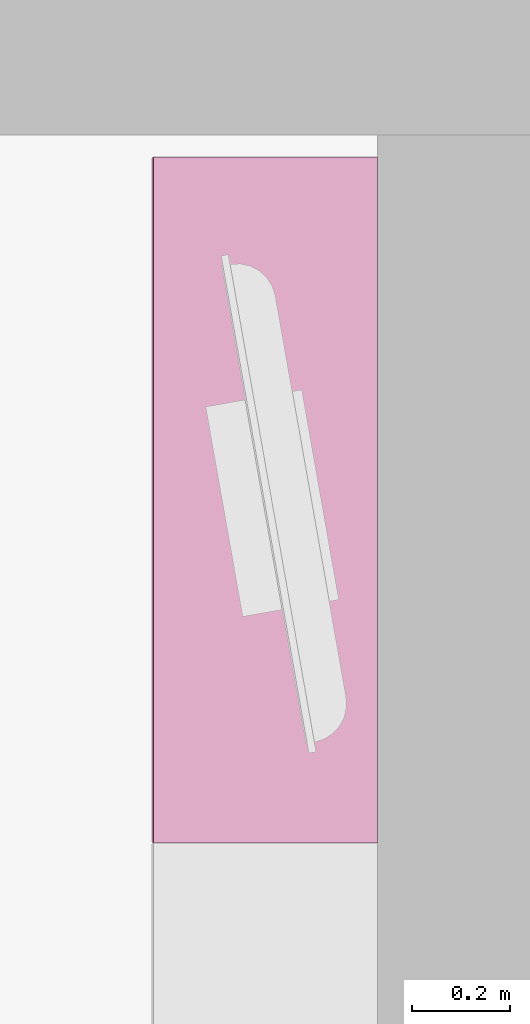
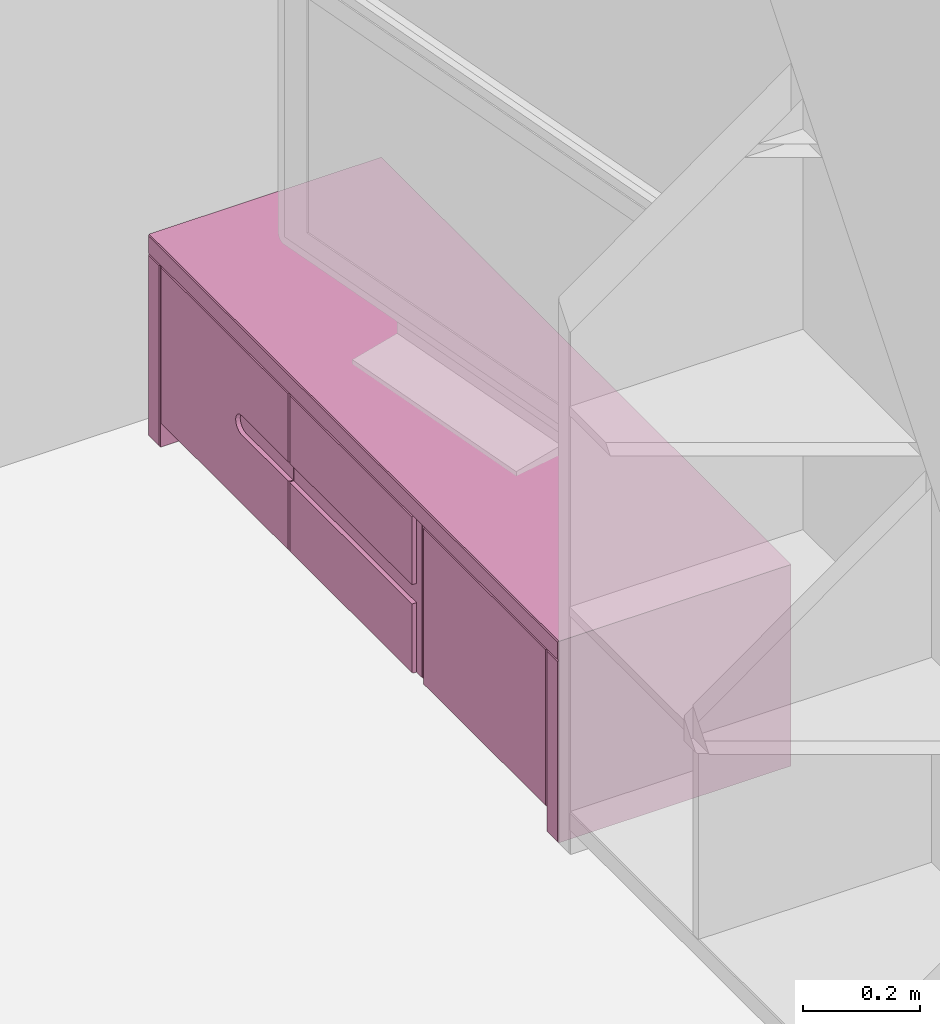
# One storey, part 37 of 40: 1 furnishing.
"""IFC2X3 building model written with IfcOpenShell, lengths in metres."""

import ifcopenshell
import ifcopenshell.guid

model = None  # the IFC model being written
_history = None  # IfcOwnerHistory: only IFC2X3 demands one
_inside = {}  # id of a spatial element -> (the spatial element, [elements in it])
_under = {}  # id of a project, library or spatial element -> (it, [spatial elements below it])
_declared = {}  # id of a project -> (the project, [libraries it declares])
_typed = {}  # id of a type object -> (the type object, [elements of that type])
_made_of = {}  # id of a material, layer set ... -> (it, [elements and type objects made of it])


def new_model(schema):
    """Start an empty IFC model of exactly this schema.

    Asked for "IFC4X3", IfcOpenShell would pick the latest addendum, in which some entities
    have other attributes; the version numbers below select the first issue.
    IFC2X3 requires an IfcOwnerHistory on every rooted entity: one is made here for all.
    """
    global model, _history
    if schema == "IFC4X3":
        model = ifcopenshell.file(schema_version=(4, 3, 0, 0))
    else:
        model = ifcopenshell.file(schema=schema)
    _inside.clear()
    _under.clear()
    _declared.clear()
    _typed.clear()
    _made_of.clear()
    _history = None
    if model.schema == "IFC2X3":
        org = make("IfcOrganization", Name="unknown")
        user = make(
            "IfcPersonAndOrganization",
            ThePerson=make("IfcPerson", FamilyName="unknown"),
            TheOrganization=org,
        )
        app = make(
            "IfcApplication",
            ApplicationDeveloper=org,
            Version="unknown",
            ApplicationFullName="unknown",
            ApplicationIdentifier="unknown",
        )
        _history = make(
            "IfcOwnerHistory",
            OwningUser=user,
            OwningApplication=app,
            ChangeAction="ADDED",
            CreationDate=0,
        )
    return model


def make(cls, **values):
    """One entity of the class cls with the attributes given. An attribute that is None is left unset."""
    return model.create_entity(
        cls, **{name: value for name, value in values.items() if value is not None}
    )


def entity(cls, *values):
    """Any entity or typed value of the class cls, its attributes in the order of the schema. None: left unset."""
    e = model.create_entity(cls)
    for i, value in enumerate(values):
        if value is not None:
            e[i] = value
    return e


def rooted(cls, **values):
    """An entity with a GlobalId (a new one), such as an element, a storey or a relation."""
    return make(cls, GlobalId=ifcopenshell.guid.new(), OwnerHistory=_history, **values)


def si_unit(unit_type, name, prefix=None):
    """IfcSIUnit, for example si_unit("LENGTHUNIT", "METRE", prefix="MILLI")."""
    return make("IfcSIUnit", UnitType=unit_type, Prefix=prefix, Name=name)


def converted_unit(unit_type, name, factor, base, dimensions=None, offset=None):
    """IfcConversionBasedUnit, such as the inch: factor (a typed value) times the base unit."""
    return make(
        "IfcConversionBasedUnit"
        if offset is None
        else "IfcConversionBasedUnitWithOffset",
        ConversionOffset=offset,
        Dimensions=None
        if dimensions is None
        else entity("IfcDimensionalExponents", *dimensions),
        UnitType=unit_type,
        Name=name,
        ConversionFactor=make(
            "IfcMeasureWithUnit", ValueComponent=factor, UnitComponent=base
        ),
    )


def derived_unit(unit_type, elements):
    """IfcDerivedUnit: a product of units, each with its exponent."""
    return make(
        "IfcDerivedUnit",
        Elements=[
            make("IfcDerivedUnitElement", Unit=unit, Exponent=power)
            for unit, power in elements
        ],
        UnitType=unit_type,
    )


def assignment(units):
    """IfcUnitAssignment: the units of a project."""
    return None if units is None else make("IfcUnitAssignment", Units=units)


def point(xyz):
    """IfcCartesianPoint."""
    return None if xyz is None else make("IfcCartesianPoint", Coordinates=xyz)


def direction(xyz):
    """IfcDirection."""
    return None if xyz is None else make("IfcDirection", DirectionRatios=xyz)


def frame(location, z_axis=None, x_axis=None):
    """IfcAxis2Placement3D, a coordinate frame: its origin and axes. An axis left out is left unset."""
    return make(
        "IfcAxis2Placement3D",
        Location=point(location),
        Axis=direction(z_axis),
        RefDirection=direction(x_axis),
    )


def origin():
    """The frame at (0, 0, 0) with its axes left unset."""
    return frame((0.0, 0.0, 0.0))


def place(relative_to, where):
    """IfcLocalPlacement: puts the frame where relative to a parent placement (None: the world)."""
    return make(
        "IfcLocalPlacement", PlacementRelTo=relative_to, RelativePlacement=where
    )


def context(
    kind, dimensions, precision=None, world=None, true_north=None, identifier=None
):
    """IfcGeometricRepresentationContext, for example the 3D "Model" context."""
    return make(
        "IfcGeometricRepresentationContext",
        ContextIdentifier=identifier,
        ContextType=kind,
        CoordinateSpaceDimension=dimensions,
        Precision=precision,
        WorldCoordinateSystem=world,
        TrueNorth=true_north,
    )


def subcontext(parent, identifier, kind, view, scale=None):
    """IfcGeometricRepresentationSubContext, for example "Body" below "Model"."""
    return make(
        "IfcGeometricRepresentationSubContext",
        ContextIdentifier=identifier,
        ContextType=kind,
        ParentContext=parent,
        TargetScale=scale,
        TargetView=view,
    )


def project(units=None, contexts=None):
    """IfcProject with its units and contexts."""
    return rooted(
        "IfcProject",
        Name="project",
        RepresentationContexts=contexts,
        UnitsInContext=assignment(units),
    )


def spatial(cls, under=None, at=None, **own):
    """A site, building, storey or space (cls), placed at a placement, below another one or the project."""
    s = rooted(cls, ObjectPlacement=at, **own)
    if under is not None:
        _under.setdefault(under.id(), (under, []))[1].append(s)
    return s


def faces_of(points, faces, orient=None, outer=None):
    """IfcFace entities. A face is a list of loops; a loop is a list of indices into points, from 0.

    orient and outer hold one flag for each loop. By default every Orientation is true, the
    first loop of a face is its IfcFaceOuterBound and the others are IfcFaceBound.
    """
    made = []
    for i, loops in enumerate(faces):
        bounds = []
        for j, loop in enumerate(loops):
            is_outer = j == 0 if outer is None else outer[i][j]
            bounds.append(
                make(
                    "IfcFaceOuterBound" if is_outer else "IfcFaceBound",
                    Bound=make("IfcPolyLoop", Polygon=[points[k] for k in loop]),
                    Orientation=True if orient is None else orient[i][j],
                )
            )
        made.append(make("IfcFace", Bounds=bounds))
    return made


def faceted_brep(points, faces, orient=None, outer=None, voids=None):
    """IfcFacetedBrep: a solid bounded by flat faces; with voids (closed shells), ...WithVoids."""
    shared = [point(p) for p in points]
    hull = make("IfcClosedShell", CfsFaces=faces_of(shared, faces, orient, outer))
    if voids is None:
        return make("IfcFacetedBrep", Outer=hull)
    return make(
        "IfcFacetedBrepWithVoids",
        Outer=hull,
        Voids=[
            make(cls, CfsFaces=faces_of(shared, fs, o, b)) for cls, fs, o, b in voids
        ],
    )


def shape(context_of_items, identifier, shape_type, items):
    """IfcShapeRepresentation: the items that make up one representation, for example the "Body"."""
    return make(
        "IfcShapeRepresentation",
        ContextOfItems=context_of_items,
        RepresentationIdentifier=identifier,
        RepresentationType=shape_type,
        Items=items,
    )


def source(mapping_origin, context_of_items, identifier, shape_type, items):
    """IfcRepresentationMap: a shape defined once, which mapped items show again and again."""
    return make(
        "IfcRepresentationMap",
        MappingOrigin=mapping_origin,
        MappedRepresentation=shape(context_of_items, identifier, shape_type, items),
    )


def transform(
    local_origin,
    x_axis=None,
    y_axis=None,
    z_axis=None,
    scale=None,
    scale2=None,
    scale3=None,
    uniform=True,
):
    """IfcCartesianTransformationOperator3D, or its non-uniform kind. x_axis, y_axis, z_axis: its Axis1, 2, 3."""
    if uniform:
        return make(
            "IfcCartesianTransformationOperator3D",
            Axis1=direction(x_axis),
            Axis2=direction(y_axis),
            LocalOrigin=point(local_origin),
            Scale=scale,
            Axis3=direction(z_axis),
        )
    return make(
        "IfcCartesianTransformationOperator3DnonUniform",
        Axis1=direction(x_axis),
        Axis2=direction(y_axis),
        LocalOrigin=point(local_origin),
        Scale=scale,
        Axis3=direction(z_axis),
        Scale2=scale2,
        Scale3=scale3,
    )


def mapped(mapping_source, mapping_target):
    """IfcMappedItem: shows the shape of a source again, moved by a transform."""
    return make(
        "IfcMappedItem", MappingSource=mapping_source, MappingTarget=mapping_target
    )


def material(Name=None, Category=None):
    """IfcMaterial."""
    return make("IfcMaterial", Name=Name, Category=Category)


def material_list(materials):
    """IfcMaterialList."""
    return make("IfcMaterialList", Materials=materials)


def made_of(thing, what):
    """Note that an element or type object is made of a material, layer set ...; save() writes the relation."""
    if what is not None:
        _made_of.setdefault(what.id(), (what, []))[1].append(thing)
    return thing


def type_object(cls, material=None, **own):
    """A type object (cls), such as IfcWallType, which elements share."""
    return made_of(rooted(cls, **own), material)


def type_shapes(of_type, sources):
    """Give a type object the sources (RepresentationMaps) that its elements show as mapped items."""
    of_type.RepresentationMaps = sources


def element(
    cls,
    number,
    at=None,
    inside=None,
    cuts=None,
    type_object=None,
    material=None,
    context=None,
    identifier="Body",
    shape_type=None,
    held_by="IfcProductDefinitionShape",
    body=None,
    shapes=None,
    **own,
):
    """One element of the class cls, such as IfcWall. Its Tag is "e" and its number.

    at: its placement. inside: the storey or other place that contains it. cuts: it is an
    opening in that element (IfcRelVoidsElement). A single representation is given by context,
    identifier, shape_type and body (its items); several are given by shapes. held_by: the class
    of the entity that holds the representations. save() writes the other relations.
    """
    e = rooted(cls, Tag="e%d" % number, ObjectPlacement=at, **own)
    if body is not None:
        shapes = [shape(context, identifier, shape_type, body)]
    if shapes is not None:
        e.Representation = make(held_by, Representations=shapes)
    if inside is not None:
        _inside.setdefault(inside.id(), (inside, []))[1].append(e)
    if cuts is not None:
        rooted(
            "IfcRelVoidsElement", RelatingBuildingElement=cuts, RelatedOpeningElement=e
        )
    if type_object is not None:
        _typed.setdefault(type_object.id(), (type_object, []))[1].append(e)
    return made_of(e, material)


def aggregate(whole, parts):
    """IfcRelAggregates: a whole, such as a stair, and the parts it consists of."""
    return rooted("IfcRelAggregates", RelatingObject=whole, RelatedObjects=parts)


def save(model, path):
    """Write the relations noted so far, then the file.

    IfcRelAggregates (storeys below a building ...), IfcRelContainedInSpatialStructure (elements
    in a storey), IfcRelDefinesByType, IfcRelAssociatesMaterial and IfcRelDeclares: one each for
    every whole, place, type object, material and project.
    """
    for whole, parts in _under.values():
        aggregate(whole, parts)
    for where, things in _inside.values():
        rooted(
            "IfcRelContainedInSpatialStructure",
            RelatedElements=things,
            RelatingStructure=where,
        )
    for kind, things in _typed.values():
        rooted("IfcRelDefinesByType", RelatedObjects=things, RelatingType=kind)
    for what, things in _made_of.values():
        rooted("IfcRelAssociatesMaterial", RelatedObjects=things, RelatingMaterial=what)
    for by, libraries in _declared.values():
        rooted("IfcRelDeclares", RelatingContext=by, RelatedDefinitions=libraries)
    model.write(path)


model = new_model("IFC2X3")

# Units and contexts
model_context = context("Model", 3, precision=1e-05, world=origin(), true_north=direction((6.12303176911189e-17, 1.0)))
body_context = subcontext(model_context, "Body", "Model", "MODEL_VIEW")
ifc_project = project(units=[si_unit("LENGTHUNIT", "METRE"), si_unit("AREAUNIT", "SQUARE_METRE"), si_unit("VOLUMEUNIT", "CUBIC_METRE"), converted_unit("PLANEANGLEUNIT", "DEGREE", entity("IfcRatioMeasure", 0.0174532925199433), si_unit("PLANEANGLEUNIT", "RADIAN"), dimensions=[0, 0, 0, 0, 0, 0, 0]), si_unit("MASSUNIT", "GRAM", prefix="KILO"), derived_unit("MASSDENSITYUNIT", [(si_unit("MASSUNIT", "GRAM", prefix="KILO"), 1), (si_unit("LENGTHUNIT", "METRE"), -3)]), si_unit("TIMEUNIT", "SECOND"), si_unit("FREQUENCYUNIT", "HERTZ"), si_unit("THERMODYNAMICTEMPERATUREUNIT", "DEGREE_CELSIUS"), derived_unit("THERMALTRANSMITTANCEUNIT", [(si_unit("MASSUNIT", "GRAM", prefix="KILO"), 1), (si_unit("THERMODYNAMICTEMPERATUREUNIT", "KELVIN"), -1), (si_unit("TIMEUNIT", "SECOND"), -3)]), derived_unit("VOLUMETRICFLOWRATEUNIT", [(si_unit("LENGTHUNIT", "METRE"), 3), (si_unit("TIMEUNIT", "SECOND"), -1)]), si_unit("ELECTRICCURRENTUNIT", "AMPERE"), si_unit("ELECTRICVOLTAGEUNIT", "VOLT"), si_unit("POWERUNIT", "WATT"), si_unit("FORCEUNIT", "NEWTON", prefix="KILO"), si_unit("ILLUMINANCEUNIT", "LUX"), si_unit("LUMINOUSFLUXUNIT", "LUMEN"), si_unit("LUMINOUSINTENSITYUNIT", "CANDELA"), derived_unit("USERDEFINED", [(si_unit("MASSUNIT", "GRAM", prefix="KILO"), -1), (si_unit("LENGTHUNIT", "METRE"), -2), (si_unit("TIMEUNIT", "SECOND"), 3), (si_unit("LUMINOUSFLUXUNIT", "LUMEN"), 1)]), derived_unit("LINEARVELOCITYUNIT", [(si_unit("LENGTHUNIT", "METRE"), 1), (si_unit("TIMEUNIT", "SECOND"), -1)]), si_unit("PRESSUREUNIT", "PASCAL"), derived_unit("USERDEFINED", [(si_unit("LENGTHUNIT", "METRE"), -2), (si_unit("MASSUNIT", "GRAM", prefix="KILO"), 1), (si_unit("TIMEUNIT", "SECOND"), -2)])], contexts=[model_context])

# Site, building, storey, space
site_placement = place(None, origin())
site = spatial("IfcSite", under=ifc_project, at=site_placement, Name="Surface", CompositionType="ELEMENT")
building_placement = place(site_placement, origin())
building = spatial("IfcBuilding", under=site, at=building_placement, CompositionType="ELEMENT")
storey_placement = place(building_placement, origin())
storey = spatial("IfcBuildingStorey", under=building, at=storey_placement, Name="RDC", CompositionType="ELEMENT", Elevation=-1.0941605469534e-13)
space_placement = place(storey_placement, origin())
space = spatial("IfcSpace", under=storey, at=space_placement, Name="13", CompositionType="ELEMENT", InteriorOrExteriorSpace="INTERNAL")

# Furnishing
ifc_material_1 = material(Name="Noir - Laqué")
ifc_material_2 = material(Name="Rouge - Laqué")
ifc_material_list_1 = material_list([ifc_material_1, ifc_material_2])
ifc_material_list_2 = material_list([ifc_material_1, ifc_material_2])
furniture_type = type_object("IfcFurnitureType", Name="1800 x 450 x 420 mm", material=ifc_material_list_2)
shared_shape = source(origin(), body_context, "Body", "Brep", [
    faceted_brep([(0.659999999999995, -0.440000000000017, 0.049999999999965), (0.659999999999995, -0.440000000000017, 0.068999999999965), (-0.660000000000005, -0.440000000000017, 0.068999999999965), (-0.660000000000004, -0.440000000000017, 0.049999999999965), (0.659999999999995, 0.0, 0.049999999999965), (-0.660000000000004, 0.0, 0.049999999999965), (-0.660000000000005, 0.0, 0.068999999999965), (0.659999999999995, 0.0, 0.068999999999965)], [[[0, 1, 2, 3]], [[4, 5, 6, 7]], [[1, 0, 4, 7]], [[2, 1, 7, 6]], [[3, 2, 6, 5]], [[0, 3, 5, 4]]]),
    faceted_brep([(-0.382154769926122, -0.450000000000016, 0.234999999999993), (-0.221000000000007, -0.450000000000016, 0.234999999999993), (-0.221000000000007, -0.456878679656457, 0.234999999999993), (-0.223121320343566, -0.459000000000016, 0.234999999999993), (-0.382154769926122, -0.459000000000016, 0.234999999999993), (-0.223121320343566, -0.459000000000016, 0.376378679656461), (-0.221000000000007, -0.456878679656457, 0.378500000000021), (-0.221000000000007, -0.456878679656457, 0.194999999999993), (-0.223121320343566, -0.459000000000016, 0.194999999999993), (-0.223121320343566, -0.459000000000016, 0.0521213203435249), (-0.221000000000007, -0.456878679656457, 0.049999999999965), (-0.221000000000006, -0.440000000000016, 0.378500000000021), (-0.221000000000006, -0.440000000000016, 0.049999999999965), (-0.658500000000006, -0.440000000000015, 0.0499999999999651), (-0.658500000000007, -0.440000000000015, 0.378500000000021), (-0.656378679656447, -0.459000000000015, 0.0521213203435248), (-0.382154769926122, -0.459000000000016, 0.194999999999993), (-0.387331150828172, -0.459000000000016, 0.195681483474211), (-0.392154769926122, -0.459000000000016, 0.197679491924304), (-0.396296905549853, -0.459000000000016, 0.200857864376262), (-0.399475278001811, -0.459000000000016, 0.204999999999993), (-0.401473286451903, -0.459000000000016, 0.209823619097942), (-0.402154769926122, -0.459000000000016, 0.214999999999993), (-0.401473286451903, -0.459000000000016, 0.220176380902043), (-0.399475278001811, -0.459000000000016, 0.224999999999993), (-0.396296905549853, -0.459000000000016, 0.229142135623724), (-0.392154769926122, -0.459000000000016, 0.232320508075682), (-0.387331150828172, -0.459000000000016, 0.234318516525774), (-0.656378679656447, -0.459000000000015, 0.376378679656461), (-0.658500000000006, -0.456878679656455, 0.0499999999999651), (-0.658500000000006, -0.456878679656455, 0.378500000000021), (-0.221000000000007, -0.450000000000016, 0.194999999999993), (-0.396296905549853, -0.450000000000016, 0.229142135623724), (-0.399475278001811, -0.450000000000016, 0.224999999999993), (-0.401473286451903, -0.450000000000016, 0.220176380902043), (-0.402154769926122, -0.450000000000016, 0.214999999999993), (-0.401473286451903, -0.450000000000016, 0.209823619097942), (-0.399475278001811, -0.450000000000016, 0.204999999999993), (-0.396296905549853, -0.450000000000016, 0.200857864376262), (-0.392154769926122, -0.450000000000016, 0.197679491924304), (-0.387331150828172, -0.450000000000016, 0.195681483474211), (-0.382154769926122, -0.450000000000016, 0.194999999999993), (-0.387331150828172, -0.450000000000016, 0.234318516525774), (-0.392154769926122, -0.450000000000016, 0.232320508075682)], [[[0, 1, 2, 3, 4]], [[5, 3, 2, 6]], [[7, 8, 9, 10]], [[11, 12, 13, 14]], [[15, 9, 8, 16, 17, 18, 19, 20, 21, 22, 23, 24, 25, 26, 27, 4, 3, 5, 28]], [[13, 12, 10, 29]], [[14, 13, 29, 30]], [[11, 14, 30, 6]], [[11, 6, 2, 1, 31, 7, 10, 12]], [[9, 15, 29, 10]], [[28, 5, 6, 30]], [[15, 28, 30, 29]], [[32, 33, 34, 35, 36, 37, 38, 39, 40, 41, 31, 1, 0, 42, 43]], [[0, 4, 27, 42]], [[42, 27, 26, 43]], [[33, 32, 25, 24]], [[25, 32, 43, 26]], [[34, 33, 24, 23]], [[34, 23, 22, 35]], [[35, 22, 21, 36]], [[36, 21, 20, 37]], [[39, 38, 19, 18]], [[19, 38, 37, 20]], [[40, 39, 18, 17]], [[40, 17, 16, 41]], [[41, 16, 8, 7, 31]]]),
    faceted_brep([(0.658499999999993, -0.440000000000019, 0.049999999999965), (0.220999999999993, -0.440000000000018, 0.0499999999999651), (0.220999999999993, -0.440000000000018, 0.378500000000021), (0.658499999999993, -0.440000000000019, 0.378500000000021), (0.658499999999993, -0.45687867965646, 0.049999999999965), (0.239999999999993, -0.456878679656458, 0.0499999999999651), (0.239999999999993, -0.450000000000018, 0.0499999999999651), (0.220999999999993, -0.450000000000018, 0.0499999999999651), (0.220999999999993, -0.450000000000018, 0.378500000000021), (0.239999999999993, -0.450000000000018, 0.378500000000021), (0.239999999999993, -0.456878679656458, 0.378500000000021), (0.658499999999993, -0.45687867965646, 0.378500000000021), (0.656378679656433, -0.459000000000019, 0.0521213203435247), (0.239999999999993, -0.459000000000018, 0.0521213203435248), (0.656378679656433, -0.459000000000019, 0.376378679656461), (0.239999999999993, -0.459000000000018, 0.376378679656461)], [[[0, 1, 2, 3]], [[1, 0, 4, 5, 6, 7]], [[2, 1, 7, 8]], [[3, 2, 8, 9, 10, 11]], [[0, 3, 11, 4]], [[4, 12, 13, 5]], [[12, 4, 11, 14]], [[14, 11, 10, 15]], [[9, 6, 5, 13, 15, 10]], [[6, 9, 8, 7]], [[12, 14, 15, 13]]]),
    faceted_brep([(0.218999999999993, -0.440000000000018, 0.0499999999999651), (0.218999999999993, -0.440000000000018, 0.378500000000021), (0.218999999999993, -0.450000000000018, 0.378500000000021), (0.218999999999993, -0.450000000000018, 0.0499999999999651), (-0.219000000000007, -0.440000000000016, 0.049999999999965), (0.199999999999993, -0.450000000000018, 0.0499999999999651), (0.199999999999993, -0.456878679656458, 0.0499999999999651), (-0.219000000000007, -0.456878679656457, 0.049999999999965), (-0.219000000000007, -0.440000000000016, 0.378500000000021), (-0.219000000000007, -0.456878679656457, 0.194999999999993), (-0.219000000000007, -0.450000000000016, 0.194999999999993), (-0.219000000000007, -0.450000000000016, 0.234999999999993), (-0.219000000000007, -0.456878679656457, 0.234999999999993), (-0.219000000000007, -0.456878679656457, 0.378500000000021), (0.199999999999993, -0.456878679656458, 0.378500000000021), (0.199999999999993, -0.450000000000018, 0.378500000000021), (-0.216878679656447, -0.459000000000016, 0.0521213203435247), (0.199999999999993, -0.459000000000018, 0.0521213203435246), (-0.216878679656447, -0.459000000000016, 0.376378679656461), (0.199999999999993, -0.459000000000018, 0.376378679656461), (-0.216878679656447, -0.459000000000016, 0.234999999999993), (0.199999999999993, -0.450000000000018, 0.234999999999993), (0.199999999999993, -0.459000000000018, 0.234999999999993), (0.199999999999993, -0.450000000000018, 0.194999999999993), (0.199999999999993, -0.459000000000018, 0.194999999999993), (-0.216878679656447, -0.459000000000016, 0.194999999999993)], [[[0, 1, 2, 3]], [[4, 0, 3, 5, 6, 7]], [[8, 4, 7, 9, 10, 11, 12, 13]], [[1, 8, 13, 14, 15, 2]], [[16, 7, 6, 17]], [[13, 18, 19, 14]], [[18, 13, 12, 20]], [[21, 15, 14, 19, 22]], [[11, 21, 22, 20, 12]], [[5, 23, 24, 17, 6]], [[23, 10, 9, 25, 24]], [[23, 5, 3, 2, 15, 21, 11, 10]], [[7, 16, 25, 9]], [[1, 0, 4, 8]], [[16, 17, 24, 25]], [[19, 18, 20, 22]]]),
    faceted_brep([(0.659999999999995, -0.019, 0.0689999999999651), (0.659999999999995, -0.019, 0.380000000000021), (-0.660000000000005, -0.019, 0.380000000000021), (-0.660000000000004, -0.019, 0.0689999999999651), (0.659999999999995, 0.0, 0.0689999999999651), (-0.660000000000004, 0.0, 0.0689999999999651), (-0.660000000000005, 0.0, 0.380000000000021), (0.659999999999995, 0.0, 0.380000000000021)], [[[0, 1, 2, 3]], [[4, 5, 6, 7]], [[1, 0, 4, 7]], [[2, 1, 7, 6]], [[3, 2, 6, 5]], [[0, 3, 5, 4]]]),
    faceted_brep([(0.7, 0.0, 0.380000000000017), (0.659999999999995, 0.0, 0.380000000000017), (0.659999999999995, -0.457878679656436, 0.380000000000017), (0.7, -0.457878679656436, 0.380000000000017), (0.659999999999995, 0.0, 0.0), (0.7, 0.0, 0.0), (0.7, -0.457878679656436, 0.0), (0.659999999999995, -0.457878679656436, 0.0), (0.662121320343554, -0.459999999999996, 0.00212132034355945), (0.697878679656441, -0.459999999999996, 0.00212132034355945), (0.697878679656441, -0.459999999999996, 0.377878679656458), (0.662121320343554, -0.459999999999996, 0.377878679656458)], [[[0, 1, 2, 3]], [[4, 5, 6, 7]], [[1, 0, 5, 4]], [[1, 4, 7, 2]], [[8, 9, 10, 11]], [[5, 0, 3, 6]], [[6, 9, 8, 7]], [[9, 6, 3, 10]], [[10, 3, 2, 11]], [[7, 8, 11, 2]]]),
    faceted_brep([(-0.660000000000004, 0.0, 0.0), (-0.660000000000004, 0.0, 0.380000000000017), (-0.660000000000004, -0.457878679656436, 0.380000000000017), (-0.660000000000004, -0.457878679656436, 0.0), (-0.699999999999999, 0.0, 0.380000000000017), (-0.699999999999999, 0.0, 0.0), (-0.699999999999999, -0.457878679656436, 0.0), (-0.699999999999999, -0.457878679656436, 0.380000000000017), (-0.69787867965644, -0.459999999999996, 0.00212132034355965), (-0.662121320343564, -0.459999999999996, 0.00212132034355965), (-0.662121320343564, -0.459999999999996, 0.377878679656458), (-0.69787867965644, -0.459999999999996, 0.377878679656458)], [[[0, 1, 2, 3]], [[4, 1, 0, 5]], [[4, 5, 6, 7]], [[8, 9, 10, 11]], [[3, 9, 8, 6]], [[9, 3, 2, 10]], [[10, 2, 7, 11]], [[6, 8, 11, 7]], [[5, 0, 3, 6]], [[1, 4, 7, 2]]]),
    faceted_brep([(-0.69787867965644, -0.46, 0.382121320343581), (0.69787867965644, -0.46, 0.382121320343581), (0.697878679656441, -0.46, 0.417878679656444), (-0.69787867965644, -0.46, 0.417878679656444), (0.7, 0.0, 0.420000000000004), (0.7, 0.0, 0.380000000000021), (-0.699999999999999, 0.0, 0.380000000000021), (-0.699999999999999, 0.0, 0.420000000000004), (-0.699999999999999, -0.45787867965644, 0.420000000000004), (0.7, -0.457878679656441, 0.420000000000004), (-0.699999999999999, -0.457878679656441, 0.380000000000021), (0.7, -0.45787867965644, 0.380000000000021)], [[[0, 1, 2, 3]], [[4, 5, 6, 7]], [[4, 7, 8, 9]], [[7, 6, 10, 8]], [[6, 5, 11, 10]], [[5, 4, 9, 11]], [[11, 1, 0, 10]], [[1, 11, 9, 2]], [[2, 9, 8, 3]], [[10, 0, 3, 8]]]),
])
type_shapes(furniture_type, [shared_shape])
furnishing_placement = place(space_placement, frame((9.46751111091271, 6.80201067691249, 0.0), z_axis=(0.0, 0.0, 1.0), x_axis=(0.0, -1.0, 0.0)))
element("IfcFurnishingElement", 1, at=furnishing_placement, inside=space, type_object=furniture_type, material=ifc_material_list_1, Name="Meuble TV:1800 x 450 x 420 mm", ObjectType="1800 x 450 x 420 mm", context=body_context, shape_type="MappedRepresentation", body=[
    mapped(shared_shape, transform((0.0, 0.0, 0.0), scale=1.0)),
])

save(model, "model.ifc")
